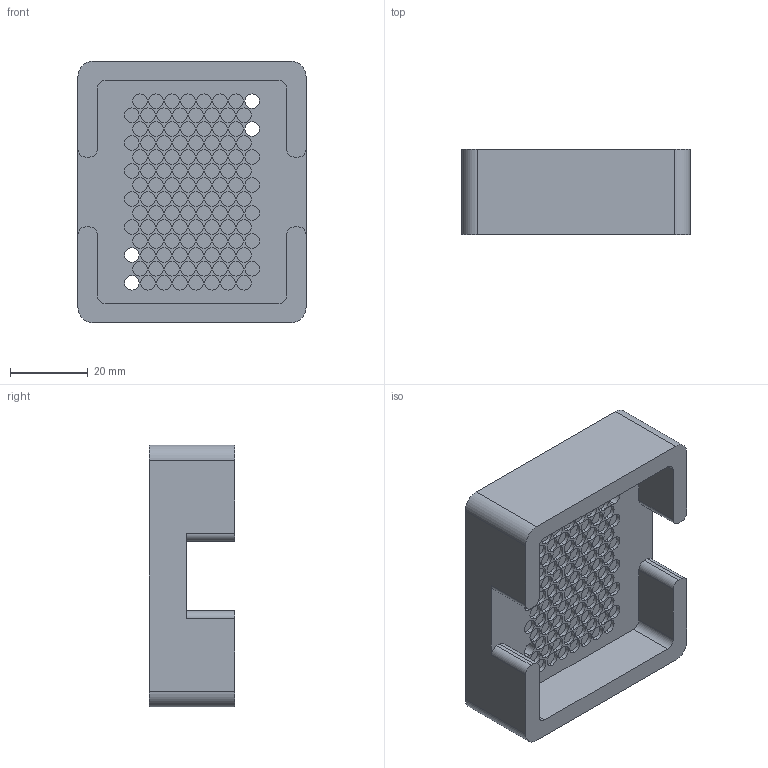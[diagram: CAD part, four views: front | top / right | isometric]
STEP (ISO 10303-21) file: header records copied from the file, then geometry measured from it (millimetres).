
FILE_DESCRIPTION (( 'STEP AP214' ), '1' );
FILE_NAME ('Press Tool GM - Al2O3.STEP', '2024-07-23T17:40:02', ( '' ), ( '' ), 'SwSTEP 2.0', 'SolidWorks 2024', '' );
FILE_SCHEMA (( 'AUTOMOTIVE_DESIGN' ));
Length unit declared in the file: millimetre
Products named in the file (1): Press Tool GM - Al2O3
Bounding box: 58.8 x 22 x 67.5 mm (x, y, z)
Volume: 48182.7 mm3; surface area: 16821.9 mm2
Topology: 1 solids, 1 shells, 366 faces, 768 edges, 512 vertices
Faces by surface type: cylinder 240, plane 126
Entity records: 10071 total; most frequent: DIRECTION 1982, CARTESIAN_POINT 1647, ORIENTED_EDGE 1536, AXIS2_PLACEMENT_3D 847, EDGE_CURVE 768, VERTEX_POINT 512, EDGE_LOOP 482, CIRCLE 480
